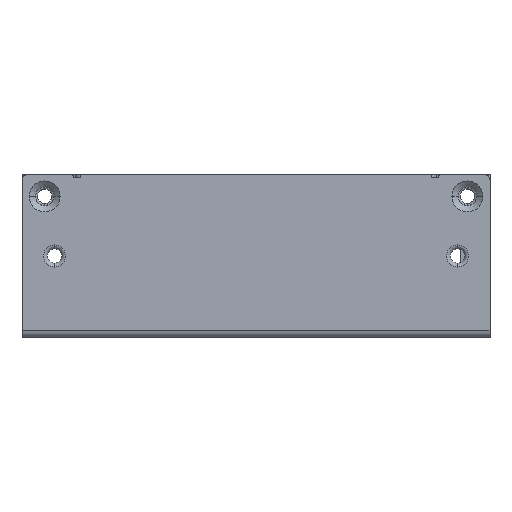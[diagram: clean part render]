
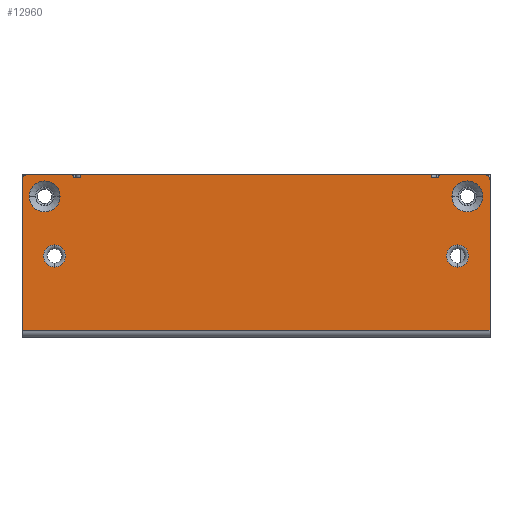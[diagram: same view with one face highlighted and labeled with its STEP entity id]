
A CAD part, front view. The second image highlights one B-rep face of the part: STEP entity #12960.
In plain terms, the highlighted planar face has unit normal (0, -1, 0) as drawn and (0, 1, 0) by its records, which use the part's own axes.
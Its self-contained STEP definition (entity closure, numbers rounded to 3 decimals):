
#9340=CARTESIAN_POINT('',(130.871,964.019,
-20.555));
#9350=VERTEX_POINT('',#9340);
#9520=CARTESIAN_POINT('',(130.871,964.019,
-24.645));
#9530=VERTEX_POINT('',#9520);
#9560=CARTESIAN_POINT('',(130.871,964.019,
-22.6));
#9570=DIRECTION('',(0.,-1.,-0.));
#9580=DIRECTION('',(0.,0.,-1.));
#9590=AXIS2_PLACEMENT_3D('',#9560,#9570,#9580);
#9600=CIRCLE('',#9590,2.045);
#9610=EDGE_CURVE('',#9530,#9350,#9600,.T.);
#11070=CARTESIAN_POINT('',(234.838,964.019,
-35.298));
#11080=DIRECTION('',(0.,1.,0.));
#11090=DIRECTION('',(-1.,0.,0.));
#11100=AXIS2_PLACEMENT_3D('',#11070,#11080,#11090);
#11110=PLANE('',#11100);
#11120=CARTESIAN_POINT('',(207.066,964.019,
-11.6));
#11130=DIRECTION('',(0.,-1.,0.));
#11140=DIRECTION('',(1.,0.,0.));
#11150=AXIS2_PLACEMENT_3D('',#11120,#11130,#11140);
#11160=CIRCLE('',#11150,2.85);
#11170=CARTESIAN_POINT('',(209.916,964.019,
-11.6));
#11180=VERTEX_POINT('',#11170);
#11190=CARTESIAN_POINT('',(204.216,964.019,
-11.6));
#11200=VERTEX_POINT('',#11190);
#11210=EDGE_CURVE('',#11180,#11200,#11160,.T.);
#11220=ORIENTED_EDGE('',*,*,#11210,.T.);
#11230=EDGE_CURVE('',#11200,#11180,#11160,.T.);
#11240=ORIENTED_EDGE('',*,*,#11230,.T.);
#11250=EDGE_LOOP('',(#11240,#11220));
#11260=FACE_BOUND('',#11250,.T.);
#11270=CARTESIAN_POINT('',(129.061,964.019,
-11.6));
#11280=DIRECTION('',(0.,-1.,0.));
#11290=DIRECTION('',(1.,0.,0.));
#11300=AXIS2_PLACEMENT_3D('',#11270,#11280,#11290);
#11310=CIRCLE('',#11300,2.85);
#11320=CARTESIAN_POINT('',(131.911,964.019,
-11.6));
#11330=VERTEX_POINT('',#11320);
#11340=CARTESIAN_POINT('',(126.211,964.019,
-11.6));
#11350=VERTEX_POINT('',#11340);
#11360=EDGE_CURVE('',#11330,#11350,#11310,.T.);
#11370=ORIENTED_EDGE('',*,*,#11360,.T.);
#11380=EDGE_CURVE('',#11350,#11330,#11310,.T.);
#11390=ORIENTED_EDGE('',*,*,#11380,.T.);
#11400=EDGE_LOOP('',(#11390,#11370));
#11410=FACE_BOUND('',#11400,.T.);
#11420=CARTESIAN_POINT('',(205.251,964.019,
-22.6));
#11430=DIRECTION('',(0.,-1.,0.));
#11440=DIRECTION('',(0.,0.,1.));
#11450=AXIS2_PLACEMENT_3D('',#11420,#11430,#11440);
#11460=CIRCLE('',#11450,2.045);
#11470=CARTESIAN_POINT('',(205.251,964.019,
-20.555));
#11480=VERTEX_POINT('',#11470);
#11490=CARTESIAN_POINT('',(205.251,964.019,
-24.645));
#11500=VERTEX_POINT('',#11490);
#11510=EDGE_CURVE('',#11480,#11500,#11460,.T.);
#11520=ORIENTED_EDGE('',*,*,#11510,.T.);
#11530=EDGE_CURVE('',#11500,#11480,#11460,.T.);
#11540=ORIENTED_EDGE('',*,*,#11530,.T.);
#11550=EDGE_LOOP('',(#11540,#11520));
#11560=FACE_BOUND('',#11550,.T.);
#11570=EDGE_CURVE('',#9350,#9530,#9600,.T.);
#11580=ORIENTED_EDGE('',*,*,#11570,.T.);
#11590=ORIENTED_EDGE('',*,*,#9610,.T.);
#11600=EDGE_LOOP('',(#11590,#11580));
#11610=FACE_BOUND('',#11600,.T.);
#11620=CARTESIAN_POINT('',(210.251,964.019,
-8.6));
#11630=DIRECTION('',(0.,1.,0.));
#11640=DIRECTION('',(0.,0.,1.));
#11650=AXIS2_PLACEMENT_3D('',#11620,#11630,#11640);
#11660=CIRCLE('',#11650,1.);
#11670=CARTESIAN_POINT('',(210.251,964.019,
-7.6));
#11680=VERTEX_POINT('',#11670);
#11690=CARTESIAN_POINT('',(211.251,964.019,
-8.6));
#11700=VERTEX_POINT('',#11690);
#11710=EDGE_CURVE('',#11680,#11700,#11660,.T.);
#11720=ORIENTED_EDGE('',*,*,#11710,.T.);
#11730=CARTESIAN_POINT('',(210.251,964.019,
-7.6));
#11740=DIRECTION('',(-1.,0.,0.));
#11750=VECTOR('',#11740,1.);
#11760=LINE('',#11730,#11750);
#11770=CARTESIAN_POINT('',(202.038,964.019,
-7.6));
#11780=VERTEX_POINT('',#11770);
#11790=EDGE_CURVE('',#11680,#11780,#11760,.T.);
#11800=ORIENTED_EDGE('',*,*,#11790,.F.);
#11810=CARTESIAN_POINT('',(202.038,964.019,
-7.85));
#11820=DIRECTION('',(0.,1.,0.));
#11830=DIRECTION('',(-1.,0.,0.));
#11840=AXIS2_PLACEMENT_3D('',#11810,#11820,#11830);
#11850=CIRCLE('',#11840,0.25);
#11860=CARTESIAN_POINT('',(201.788,964.019,
-7.85));
#11870=VERTEX_POINT('',#11860);
#11880=EDGE_CURVE('',#11870,#11780,#11850,.T.);
#11890=ORIENTED_EDGE('',*,*,#11880,.T.);
#11900=CARTESIAN_POINT('',(201.788,964.019,
-7.85));
#11910=DIRECTION('',(0.,0.,-1.));
#11920=VECTOR('',#11910,1.);
#11930=LINE('',#11900,#11920);
#11940=CARTESIAN_POINT('',(201.788,964.019,
-8.2));
#11950=VERTEX_POINT('',#11940);
#11960=EDGE_CURVE('',#11870,#11950,#11930,.T.);
#11970=ORIENTED_EDGE('',*,*,#11960,.F.);
#11980=CARTESIAN_POINT('',(201.788,964.019,
-8.2));
#11990=DIRECTION('',(-1.,0.,0.));
#12000=VECTOR('',#11990,1.);
#12010=LINE('',#11980,#12000);
#12020=CARTESIAN_POINT('',(200.388,964.019,
-8.2));
#12030=VERTEX_POINT('',#12020);
#12040=EDGE_CURVE('',#11950,#12030,#12010,.T.);
#12050=ORIENTED_EDGE('',*,*,#12040,.F.);
#12060=CARTESIAN_POINT('',(200.388,964.019,
-8.2));
#12070=DIRECTION('',(0.,0.,1.));
#12080=VECTOR('',#12070,1.);
#12090=LINE('',#12060,#12080);
#12100=CARTESIAN_POINT('',(200.388,964.019,-7.6));
#12110=VERTEX_POINT('',#12100);
#12120=EDGE_CURVE('',#12030,#12110,#12090,.T.);
#12130=ORIENTED_EDGE('',*,*,#12120,.F.);
#12140=CARTESIAN_POINT('',(200.388,964.019,-7.6));
#12150=DIRECTION('',(-1.,0.,0.));
#12160=VECTOR('',#12150,1.);
#12170=LINE('',#12140,#12160);
#12180=CARTESIAN_POINT('',(135.738,964.019,-7.6));
#12190=VERTEX_POINT('',#12180);
#12200=EDGE_CURVE('',#12110,#12190,#12170,.T.);
#12210=ORIENTED_EDGE('',*,*,#12200,.F.);
#12220=CARTESIAN_POINT('',(135.738,964.019,-7.6));
#12230=DIRECTION('',(0.,0.,-1.));
#12240=VECTOR('',#12230,1.);
#12250=LINE('',#12220,#12240);
#12260=CARTESIAN_POINT('',(135.738,964.019,
-8.2));
#12270=VERTEX_POINT('',#12260);
#12280=EDGE_CURVE('',#12190,#12270,#12250,.T.);
#12290=ORIENTED_EDGE('',*,*,#12280,.F.);
#12300=CARTESIAN_POINT('',(135.738,964.019,
-8.2));
#12310=DIRECTION('',(-1.,0.,0.));
#12320=VECTOR('',#12310,1.);
#12330=LINE('',#12300,#12320);
#12340=CARTESIAN_POINT('',(134.338,964.019,
-8.2));
#12350=VERTEX_POINT('',#12340);
#12360=EDGE_CURVE('',#12270,#12350,#12330,.T.);
#12370=ORIENTED_EDGE('',*,*,#12360,.F.);
#12380=CARTESIAN_POINT('',(134.338,964.019,
-8.2));
#12390=DIRECTION('',(0.,0.,1.));
#12400=VECTOR('',#12390,1.);
#12410=LINE('',#12380,#12400);
#12420=CARTESIAN_POINT('',(134.338,964.019,
-7.85));
#12430=VERTEX_POINT('',#12420);
#12440=EDGE_CURVE('',#12350,#12430,#12410,.T.);
#12450=ORIENTED_EDGE('',*,*,#12440,.F.);
#12460=CARTESIAN_POINT('',(134.088,964.019,
-7.85));
#12470=DIRECTION('',(0.,1.,0.));
#12480=DIRECTION('',(0.,0.,1.));
#12490=AXIS2_PLACEMENT_3D('',#12460,#12470,#12480);
#12500=CIRCLE('',#12490,0.25);
#12510=CARTESIAN_POINT('',(134.088,964.019,
-7.6));
#12520=VERTEX_POINT('',#12510);
#12530=EDGE_CURVE('',#12520,#12430,#12500,.T.);
#12540=ORIENTED_EDGE('',*,*,#12530,.T.);
#12550=CARTESIAN_POINT('',(134.088,964.019,
-7.6));
#12560=DIRECTION('',(-1.,0.,0.));
#12570=VECTOR('',#12560,1.);
#12580=LINE('',#12550,#12570);
#12590=CARTESIAN_POINT('',(125.876,964.019,
-7.6));
#12600=VERTEX_POINT('',#12590);
#12610=EDGE_CURVE('',#12520,#12600,#12580,.T.);
#12620=ORIENTED_EDGE('',*,*,#12610,.F.);
#12630=CARTESIAN_POINT('',(125.876,964.019,
-8.6));
#12640=DIRECTION('',(0.,1.,0.));
#12650=DIRECTION('',(-1.,0.,0.));
#12660=AXIS2_PLACEMENT_3D('',#12630,#12640,#12650);
#12670=CIRCLE('',#12660,1.);
#12680=CARTESIAN_POINT('',(124.876,964.019,
-8.6));
#12690=VERTEX_POINT('',#12680);
#12700=EDGE_CURVE('',#12690,#12600,#12670,.T.);
#12710=ORIENTED_EDGE('',*,*,#12700,.T.);
#12720=CARTESIAN_POINT('',(124.876,964.019,
-36.3));
#12730=DIRECTION('',(0.,0.,1.));
#12740=VECTOR('',#12730,1.);
#12750=LINE('',#12720,#12740);
#12760=CARTESIAN_POINT('',(124.876,964.019,
-36.3));
#12770=VERTEX_POINT('',#12760);
#12780=EDGE_CURVE('',#12770,#12690,#12750,.T.);
#12790=ORIENTED_EDGE('',*,*,#12780,.T.);
#12800=CARTESIAN_POINT('',(124.876,964.019,
-36.3));
#12810=DIRECTION('',(1.,0.,0.));
#12820=VECTOR('',#12810,1.);
#12830=LINE('',#12800,#12820);
#12840=CARTESIAN_POINT('',(211.251,964.019,
-36.3));
#12850=VERTEX_POINT('',#12840);
#12860=EDGE_CURVE('',#12770,#12850,#12830,.T.);
#12870=ORIENTED_EDGE('',*,*,#12860,.F.);
#12880=CARTESIAN_POINT('',(211.251,964.019,
-8.6));
#12890=DIRECTION('',(0.,0.,-1.));
#12900=VECTOR('',#12890,1.);
#12910=LINE('',#12880,#12900);
#12920=EDGE_CURVE('',#11700,#12850,#12910,.T.);
#12930=ORIENTED_EDGE('',*,*,#12920,.T.);
#12940=EDGE_LOOP('',(#12930,#12870,#12790,#12710,#12620,#12540,#12450,
#12370,#12290,#12210,#12130,#12050,#11970,#11890,#11800,#11720));
#12950=FACE_OUTER_BOUND('',#12940,.T.);
#12960=ADVANCED_FACE('',(#11260,#11410,#11560,#11610,#12950),#11110,.T.)
;
